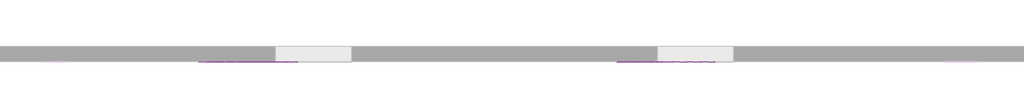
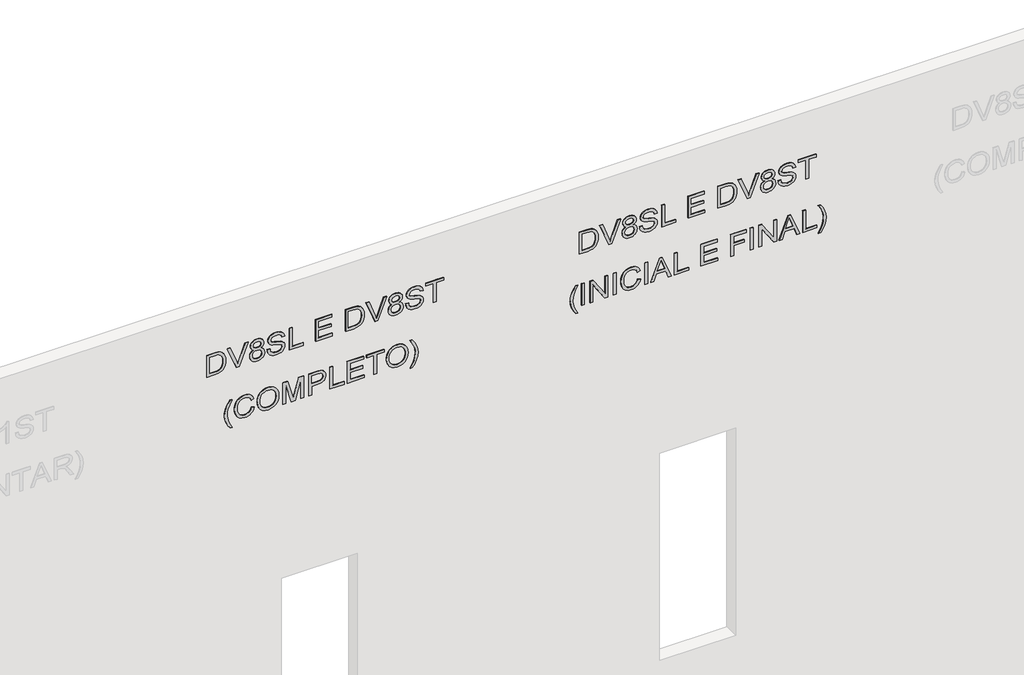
# One storey, part 3 of 4: 2 proxies.
"""IFC4 building model written with IfcOpenShell, lengths in millimetres."""

from ifc_helpers import new_model, si_unit, frame, origin, place, context, project, spatial, polyline, outline, extrude, element, save

model = new_model("IFC4")

# Units and contexts
model_context = context("Model", 3, world=origin())
ifc_project = project(units=[si_unit("LENGTHUNIT", "METRE", prefix="MILLI")], contexts=[model_context])

# Site, building, storey
site = spatial("IfcSite", under=ifc_project)
building = spatial("IfcBuilding", under=site)
storey = spatial("IfcBuildingStorey", under=building, Name="01 - Marelli - Planta Baixa - Painel Simples", Elevation=0.0)

# Proxies
placement = place(None, origin())
element("IfcBuildingElementProxy", 1, Name="300mm Arial", ObjectType="300mm Arial", at=placement, inside=storey, context=model_context, shape_type="SweptSolid", body=[
    extrude(outline(polyline([(6065.9244535, 12379.9457465), (6065.9244535, 12488.9123935), (6071.0748015, 12537.3624523), (6077.4299629, 12556.9061833), (6086.1947515, 12573.3780996), (6098.0129606, 12587.7254974), (6113.5283837, 12600.8956728), (6133.1824793, 12612.3368029), (6157.4167057, 12621.4970646), (6185.8815751, 12627.5119352), (6218.2275995, 12629.5168921), (6256.303386, 12626.555442), (6289.8910122, 12617.6710918), (6318.438655, 12602.8270533), (6341.3944915, 12581.9865383), (6354.5830611, 12561.7162403), (6362.9523764, 12537.6935461), (6367.293384, 12483.9091984), (6367.293384, 12379.9457465), (6065.9244535, 12379.9457465)]), holes=[polyline([(6103.5955698, 12417.6168628), (6329.6222677, 12417.6168628), (6329.6222677, 12483.2470108), (6328.1139515, 12514.995227), (6323.589003, 12536.6634765), (6311.0074387, 12557.9546469), (6290.1853178, 12575.7693326), (6259.8718414, 12587.8266649), (6218.8162107, 12591.8457757), (6187.8313497, 12589.7948336), (6161.8312897, 12583.6420073), (6140.7240602, 12573.8103609), (6124.4176908, 12560.722959), (6115.606917, 12548.5460649), (6109.0402234, 12532.7639273), (6104.9567332, 12511.8498359), (6103.5955698, 12484.2770804), (6103.5955698, 12417.6168628)])]), frame((0.0, 8778.3159498, 0.0), z_axis=(0.0, 1.0, 0.0), x_axis=(0.0, 0.0, 1.0)), (0.0, 0.0, 1.0), 10.0),
    extrude(outline(polyline([(6065.9244535, 12770.3421198), (6065.9244535, 12809.2640349), (6367.293384, 12924.1167938), (6367.293384, 12883.7969271), (6150.1694304, 12803.3043466), (6101.2411251, 12787.2646916), (6150.1694304, 12771.0043074), (6367.293384, 12690.732456), (6367.293384, 12650.4125894), (6065.9244535, 12770.3421198)])), frame((0.0, 8778.3159498, 0.0), z_axis=(0.0, 1.0, 0.0), x_axis=(0.0, 0.0, 1.0)), (0.0, 0.0, 1.0), 10.0),
    extrude(outline(polyline([(6231.9128098, 12999.9004848), (6221.4281729, 12976.5767663), (6204.5423893, 12959.2863125), (6182.0280112, 12948.5809465), (6154.6575908, 12945.0124911), (6135.5070337, 12946.7139453), (6118.007347, 12951.818308), (6102.1585308, 12960.3255792), (6087.960585, 12972.2357588), (6076.2596383, 12986.9234474), (6067.9018193, 13003.7632457), (6062.8871278, 13022.7551537), (6061.215564, 13043.8991714), (6062.88023, 13065.0431891), (6067.8742281, 13084.0350971), (6076.1975583, 13100.8748954), (6087.8502204, 13115.5625841), (6101.9492979, 13127.4727637), (6117.6118739, 13135.9800348), (6134.8379483, 13141.0843975), (6153.6275212, 13142.7858517), (6179.9770691, 13139.3553521), (6202.3718855, 13129.0638533), (6219.965842, 13112.1872668), (6231.9128098, 13089.001504), (6241.8180325, 13108.5268409), (6255.1997401, 13122.368401), (6271.6348682, 13130.6181547), (6290.7003526, 13133.3680726), (6306.0962141, 13131.8229683), (6320.278065, 13127.1876551), (6333.2459053, 13119.4621332), (6344.9997351, 13108.6464026), (6354.7532065, 13095.2968847), (6361.7199718, 13079.970001), (6367.293384, 13043.3841366), (6361.8487305, 13007.0190014), (6355.0429135, 12991.8576647), (6345.5147699, 12978.7104819), (6333.9862678, 12968.0878893), (6321.1793759, 12960.5003231), (6307.094094, 12955.9477834), (6291.7304222, 12954.4302702), (6272.0303413, 12957.2169763), (6255.3101047, 12965.5770946), (6241.8456236, 12979.7313544), (6231.9128098, 12999.9004848)]), holes=[polyline([(6290.6267762, 12992.1013865), (6305.525997, 12995.4950979), (6318.1443494, 13005.6762321), (6326.7527881, 13022.0193898), (6329.6222677, 13043.8991714), (6326.6884088, 13065.6409973), (6317.886832, 13082.0117461), (6304.781036, 13092.2756538), (6288.934519, 13095.6969563), (6273.6674162, 13092.3860184), (6260.9754874, 13082.4532045), (6252.422231, 13066.3031849), (6249.5711455, 13044.3406298), (6252.4406251, 13021.8538429), (6261.0490638, 13005.4555029), (6274.182451, 12995.4399156), (6290.6267762, 12992.1013865)]), polyline([(6155.981966, 12982.6836074), (6177.9629152, 12986.66593), (6195.9339506, 12998.6128978), (6207.9085096, 13017.6599881), (6211.9000292, 13042.9426782), (6207.8533273, 13068.8783589), (6195.7132214, 13088.5600456), (6177.3926981, 13100.976063), (6154.8047436, 13105.1147354), (6132.5938681, 13101.1048217), (6114.6688179, 13089.0750804), (6102.8322147, 13069.8348521), (6098.8866803, 13044.193477), (6100.7628785, 13027.4548462), (6106.391473, 13011.2312502), (6115.4505671, 12997.6839958), (6127.6182641, 12988.9743895), (6155.981966, 12982.6836074)])]), frame((0.0, 8778.3159498, 0.0), z_axis=(0.0, 1.0, 0.0), x_axis=(0.0, 0.0, 1.0)), (0.0, 0.0, 1.0), 10.0),
    extrude(outline(polyline([(6169.5200234, 13175.7480785), (6139.0961824, 13180.2178447), (6111.9832793, 13192.0084627), (6089.7264186, 13210.3749713), (6073.8707046, 13234.5724095), (6064.3793492, 13264.9502653), (6061.215564, 13301.8580264), (6064.1494229, 13331.9231825), (6072.9509996, 13358.8429475), (6087.0408801, 13381.2285669), (6105.83965, 13397.6912862), (6127.6826435, 13407.8172381), (6150.9051944, 13411.1925554), (6173.6219076, 13408.2586965), (6193.5059295, 13399.4571198), (6210.3733189, 13384.4751255), (6224.0401351, 13363.000014), (6232.8509088, 13337.8736738), (6242.9492696, 13296.3397965), (6253.5810593, 13256.0935062), (6263.9921197, 13234.8299269), (6275.6355849, 13225.8352121), (6290.1117414, 13222.8369739), (6307.0894955, 13227.0676168), (6321.381711, 13239.7595457), (6331.0937957, 13261.7037067), (6334.3311572, 13293.6910461), (6331.0570075, 13324.9426216), (6321.2345582, 13347.4753938), (6305.0109622, 13361.896368), (6282.5333723, 13368.8125496), (6282.5333723, 13406.4836659), (6307.4941657, 13402.2346288), (6329.6958441, 13391.5476569), (6347.9979733, 13374.6618733), (6361.2601193, 13351.8164014), (6369.316735, 13324.0045225), (6372.0022735, 13292.2195182), (6369.4362966, 13262.880929), (6361.7383659, 13236.3750313), (6349.0832252, 13214.2929145), (6331.6456187, 13198.2256684), (6311.0718181, 13188.4308103), (6289.0080954, 13185.1658576), (6269.2712264, 13187.8054109), (6251.5577083, 13195.7240708), (6236.198635, 13209.0138079), (6223.5251003, 13227.7665926), (6214.4660061, 13250.8052026), (6204.9470595, 13286.8116528), (6190.5628735, 13341.6628583), (6182.7545782, 13357.7393015), (6173.4563607, 13367.2674452), (6162.5578566, 13371.9579406), (6149.9487012, 13373.5214391), (6137.0084521, 13371.4337088), (6124.6752082, 13365.1705178), (6113.9330539, 13354.6398957), (6105.7660736, 13339.7498719), (6100.6065286, 13321.3741663), (6098.8866803, 13300.3864985), (6101.1583516, 13276.5477452), (6107.9733656, 13255.2105894), (6118.4763965, 13237.7545888), (6131.8121189, 13225.5593006), (6148.615129, 13217.7418082), (6169.5200234, 13213.4191948), (6169.5200234, 13175.7480785)])), frame((0.0, 8778.3159498, 0.0), z_axis=(0.0, 1.0, 0.0), x_axis=(0.0, 0.0, 1.0)), (0.0, 0.0, 1.0), 10.0),
    extrude(outline(polyline([(6065.9244535, 13467.6992299), (6065.9244535, 13656.0548114), (6103.5955698, 13656.0548114), (6103.5955698, 13505.3703462), (6367.293384, 13505.3703462), (6367.293384, 13467.6992299), (6065.9244535, 13467.6992299)])), frame((0.0, 8778.3159498, 0.0), z_axis=(0.0, 1.0, 0.0), x_axis=(0.0, 0.0, 1.0)), (0.0, 0.0, 1.0), 10.0),
    extrude(outline(polyline([(6065.9244535, 13816.1570557), (6065.9244535, 14037.474864), (6103.5955698, 14037.474864), (6103.5955698, 13853.828172), (6202.4822501, 13853.828172), (6202.4822501, 14023.3481954), (6240.1533665, 14023.3481954), (6240.1533665, 13853.828172), (6329.6222677, 13853.828172), (6329.6222677, 14032.7659745), (6367.293384, 14032.7659745), (6367.293384, 13816.1570557), (6065.9244535, 13816.1570557)])), frame((0.0, 8778.3159498, 0.0), z_axis=(0.0, 1.0, 0.0), x_axis=(0.0, 0.0, 1.0)), (0.0, 0.0, 1.0), 10.0),
    extrude(outline(polyline([(6065.9244535, 14211.7037769), (6065.9244535, 14320.6704239), (6071.0748015, 14369.1204826), (6077.4299629, 14388.6642136), (6086.1947515, 14405.13613), (6098.0129606, 14419.4835278), (6113.5283837, 14432.6537032), (6133.1824793, 14444.0948333), (6157.4167057, 14453.2550949), (6185.8815751, 14459.2699656), (6218.2275995, 14461.2749224), (6256.303386, 14458.3134724), (6289.8910122, 14449.4291222), (6318.438655, 14434.5850837), (6341.3944915, 14413.7445687), (6354.5830611, 14393.4742707), (6362.9523764, 14369.4515764), (6367.293384, 14315.6672287), (6367.293384, 14211.7037769), (6065.9244535, 14211.7037769)]), holes=[polyline([(6103.5955698, 14249.3748932), (6329.6222677, 14249.3748932), (6329.6222677, 14315.0050412), (6328.1139515, 14346.7532573), (6323.589003, 14368.4215069), (6311.0074387, 14389.7126773), (6290.1853178, 14407.5273629), (6259.8718414, 14419.5846953), (6218.8162107, 14423.6038061), (6187.8313497, 14421.552864), (6161.8312897, 14415.4000376), (6140.7240602, 14405.5683913), (6124.4176908, 14392.4809893), (6115.606917, 14380.3040953), (6109.0402234, 14364.5219577), (6104.9567332, 14343.6078663), (6103.5955698, 14316.0351107), (6103.5955698, 14249.3748932)])]), frame((0.0, 8778.3159498, 0.0), z_axis=(0.0, 1.0, 0.0), x_axis=(0.0, 0.0, 1.0)), (0.0, 0.0, 1.0), 10.0),
    extrude(outline(polyline([(6065.9244535, 14602.1001502), (6065.9244535, 14641.0220653), (6367.293384, 14755.8748242), (6367.293384, 14715.5549575), (6150.1694304, 14635.062377), (6101.2411251, 14619.022722), (6150.1694304, 14602.7623378), (6367.293384, 14522.4904864), (6367.293384, 14482.1706198), (6065.9244535, 14602.1001502)])), frame((0.0, 8778.3159498, 0.0), z_axis=(0.0, 1.0, 0.0), x_axis=(0.0, 0.0, 1.0)), (0.0, 0.0, 1.0), 10.0),
    extrude(outline(polyline([(6231.9128098, 14831.6585152), (6221.4281729, 14808.3347967), (6204.5423893, 14791.0443429), (6182.0280112, 14780.3389769), (6154.6575908, 14776.7705215), (6135.5070337, 14778.4719757), (6118.007347, 14783.5763384), (6102.1585308, 14792.0836095), (6087.960585, 14803.9937891), (6076.2596383, 14818.6814778), (6067.9018193, 14835.5212761), (6062.8871278, 14854.5131841), (6061.215564, 14875.6572018), (6062.88023, 14896.8012195), (6067.8742281, 14915.7931275), (6076.1975583, 14932.6329258), (6087.8502204, 14947.3206145), (6101.9492979, 14959.2307941), (6117.6118739, 14967.7380652), (6134.8379483, 14972.8424279), (6153.6275212, 14974.5438821), (6179.9770691, 14971.1133825), (6202.3718855, 14960.8218837), (6219.965842, 14943.9452972), (6231.9128098, 14920.7595344), (6241.8180325, 14940.2848713), (6255.1997401, 14954.1264314), (6271.6348682, 14962.3761851), (6290.7003526, 14965.126103), (6306.0962141, 14963.5809987), (6320.278065, 14958.9456855), (6333.2459053, 14951.2201636), (6344.9997351, 14940.404433), (6354.7532065, 14927.0549151), (6361.7199718, 14911.7280314), (6367.293384, 14875.142167), (6361.8487305, 14838.7770318), (6355.0429135, 14823.6156951), (6345.5147699, 14810.4685123), (6333.9862678, 14799.8459196), (6321.1793759, 14792.2583535), (6307.094094, 14787.7058138), (6291.7304222, 14786.1883006), (6272.0303413, 14788.9750067), (6255.3101047, 14797.335125), (6241.8456236, 14811.4893848), (6231.9128098, 14831.6585152)]), holes=[polyline([(6290.6267762, 14823.8594169), (6305.525997, 14827.2531283), (6318.1443494, 14837.4342625), (6326.7527881, 14853.7774201), (6329.6222677, 14875.6572018), (6326.6884088, 14897.3990277), (6317.886832, 14913.7697765), (6304.781036, 14924.0336842), (6288.934519, 14927.4549867), (6273.6674162, 14924.1440488), (6260.9754874, 14914.2112349), (6252.422231, 14898.0612153), (6249.5711455, 14876.0986602), (6252.4406251, 14853.6118732), (6261.0490638, 14837.2135333), (6274.182451, 14827.197946), (6290.6267762, 14823.8594169)]), polyline([(6155.981966, 14814.4416378), (6177.9629152, 14818.4239604), (6195.9339506, 14830.3709282), (6207.9085096, 14849.4180185), (6211.9000292, 14874.7007086), (6207.8533273, 14900.6363893), (6195.7132214, 14920.318076), (6177.3926981, 14932.7340934), (6154.8047436, 14936.8727658), (6132.5938681, 14932.8628521), (6114.6688179, 14920.8331108), (6102.8322147, 14901.5928825), (6098.8866803, 14875.9515074), (6100.7628785, 14859.2128766), (6106.391473, 14842.9892806), (6115.4505671, 14829.4420262), (6127.6182641, 14820.7324199), (6155.981966, 14814.4416378)])]), frame((0.0, 8778.3159498, 0.0), z_axis=(0.0, 1.0, 0.0), x_axis=(0.0, 0.0, 1.0)), (0.0, 0.0, 1.0), 10.0),
    extrude(outline(polyline([(6169.5200234, 15007.5061089), (6139.0961824, 15011.9758751), (6111.9832793, 15023.7664931), (6089.7264186, 15042.1330017), (6073.8707046, 15066.3304399), (6064.3793492, 15096.7082957), (6061.215564, 15133.6160568), (6064.1494229, 15163.6812129), (6072.9509996, 15190.6009779), (6087.0408801, 15212.9865973), (6105.83965, 15229.4493166), (6127.6826435, 15239.5752685), (6150.9051944, 15242.9505858), (6173.6219076, 15240.0167269), (6193.5059295, 15231.2151501), (6210.3733189, 15216.2331559), (6224.0401351, 15194.7580444), (6232.8509088, 15169.6317041), (6242.9492696, 15128.0978269), (6253.5810593, 15087.8515366), (6263.9921197, 15066.5879573), (6275.6355849, 15057.5932425), (6290.1117414, 15054.5950043), (6307.0894955, 15058.8256472), (6321.381711, 15071.517576), (6331.0937957, 15093.461737), (6334.3311572, 15125.4490765), (6331.0570075, 15156.700652), (6321.2345582, 15179.2334242), (6305.0109622, 15193.6543984), (6282.5333723, 15200.5705799), (6282.5333723, 15238.2416962), (6307.4941657, 15233.9926592), (6329.6958441, 15223.3056872), (6347.9979733, 15206.4199037), (6361.2601193, 15183.5744318), (6369.316735, 15155.7625529), (6372.0022735, 15123.9775485), (6369.4362966, 15094.6389594), (6361.7383659, 15068.1330617), (6349.0832252, 15046.0509449), (6331.6456187, 15029.9836988), (6311.0718181, 15020.1888407), (6289.0080954, 15016.923888), (6269.2712264, 15019.5634413), (6251.5577083, 15027.4821012), (6236.198635, 15040.7718383), (6223.5251003, 15059.524623), (6214.4660061, 15082.5632329), (6204.9470595, 15118.5696832), (6190.5628735, 15173.4208887), (6182.7545782, 15189.4973319), (6173.4563607, 15199.0254756), (6162.5578566, 15203.715971), (6149.9487012, 15205.2794695), (6137.0084521, 15203.1917392), (6124.6752082, 15196.9285482), (6113.9330539, 15186.3979261), (6105.7660736, 15171.5079023), (6100.6065286, 15153.1321967), (6098.8866803, 15132.1445288), (6101.1583516, 15108.3057756), (6107.9733656, 15086.9686198), (6118.4763965, 15069.5126192), (6131.8121189, 15057.317331), (6148.615129, 15049.4998386), (6169.5200234, 15045.1772252), (6169.5200234, 15007.5061089)])), frame((0.0, 8778.3159498, 0.0), z_axis=(0.0, 1.0, 0.0), x_axis=(0.0, 0.0, 1.0)), (0.0, 0.0, 1.0), 10.0),
    extrude(outline(polyline([(6065.9244535, 15374.7994929), (6065.9244535, 15412.4706092), (6329.6222677, 15412.4706092), (6329.6222677, 15511.3572895), (6367.293384, 15511.3572895), (6367.293384, 15275.9128126), (6329.6222677, 15275.9128126), (6329.6222677, 15374.7994929), (6065.9244535, 15374.7994929)])), frame((0.0, 8778.3159498, 0.0), z_axis=(0.0, 1.0, 0.0), x_axis=(0.0, 0.0, 1.0)), (0.0, 0.0, 1.0), 10.0),
    extrude(outline(polyline([(5249.3155348, 12686.0235665), (5249.3155348, 12714.2769037), (5297.5540614, 12685.4349553), (5345.8109821, 12664.8335636), (5394.0862969, 12652.4727286), (5442.3800058, 12648.3524502), (5480.2534572, 12650.7252891), (5517.9429677, 12657.8438057), (5575.7740173, 12679.0338086), (5635.4444769, 12714.2769037), (5635.4444769, 12686.0235665), (5584.934279, 12651.3322944), (5534.2033518, 12627.0152945), (5489.4137189, 12614.764824), (5442.600735, 12610.6813339), (5389.2210575, 12616.1443815), (5337.68079, 12632.5335244), (5290.2791949, 12656.8321302), (5249.3155348, 12686.0235665)])), frame((0.0, 8778.3159498, 0.0), z_axis=(0.0, 1.0, 0.0), x_axis=(0.0, 0.0, 1.0)), (0.0, 0.0, 1.0), 10.0),
    extrude(outline(polyline([(5441.2027835, 12968.5569388), (5408.9395325, 12956.3708477), (5385.7261786, 12936.5879934), (5371.7098746, 12910.3855983), (5367.0377732, 12878.9408848), (5370.4682728, 12851.9659375), (5380.7597717, 12826.9591589), (5397.9858461, 12806.1002497), (5422.2200725, 12791.5689109), (5452.3128197, 12783.0432457), (5487.1144565, 12780.2013573), (5515.5333406, 12782.6017873), (5543.1060961, 12789.8030774), (5567.4966724, 12802.9272675), (5586.3690188, 12823.0963979), (5598.4539423, 12849.6758721), (5602.4822501, 12882.0310935), (5598.8494154, 12910.1004898), (5587.9509113, 12932.9459617), (5569.1061561, 12950.7882384), (5541.6345681, 12963.8480493), (5550.6108888, 13001.5191656), (5588.4291579, 12984.8817023), (5603.751443, 12973.0795881), (5616.6824952, 12958.9552187), (5626.9510013, 12942.7753087), (5634.2856486, 12924.8065725), (5640.1533665, 12883.5026215), (5635.6192209, 12845.6475642), (5622.0167841, 12811.1034449), (5599.6771499, 12781.9763879), (5568.9314122, 12760.3725177), (5530.9843844, 12746.9908102), (5487.0408801, 12742.530241), (5445.3782441, 12746.4757754), (5406.4747231, 12758.3123786), (5373.3837376, 12777.6997597), (5349.1587083, 12804.297628), (5334.3146698, 12838.9980972), (5329.3666569, 12882.6932811), (5331.0014325, 12905.1156887), (5335.9057594, 12925.7354746), (5344.0796375, 12944.5526386), (5355.5230668, 12961.5671809), (5370.0796975, 12976.4434091), (5387.5931797, 12988.8456308), (5408.0635135, 12998.7738462), (5431.4906988, 13006.2280551), (5441.2027835, 12968.5569388)])), frame((0.0, 8778.3159498, 0.0), z_axis=(0.0, 1.0, 0.0), x_axis=(0.0, 0.0, 1.0)), (0.0, 0.0, 1.0), 10.0),
    extrude(outline(polyline([(5480.7868861, 13043.8991714), (5442.2420501, 13048.2033908), (5405.7757473, 13061.1160488), (5374.0827134, 13082.3796281), (5349.8576841, 13111.7366113), (5334.4894137, 13147.3843767), (5329.3666569, 13187.5203023), (5334.0019701, 13225.3293744), (5347.9079095, 13260.471302), (5370.8269578, 13290.4352905), (5402.5015976, 13312.7105453), (5440.9636602, 13326.5337113), (5484.2449769, 13331.1414333), (5526.9560765, 13326.7636375), (5564.8847102, 13313.6302503), (5596.5041677, 13292.1459418), (5620.2877387, 13262.7153821), (5635.1869595, 13227.2699519), (5640.1533665, 13187.7410315), (5637.5092146, 13157.4505478), (5629.5767591, 13130.0755288), (5616.3559999, 13105.6159746), (5597.846937, 13084.0718853), (5574.6657728, 13066.496323), (5547.4287096, 13053.9423499), (5516.1357474, 13046.409966), (5480.7868861, 13043.8991714)]), holes=[polyline([(5480.4190041, 13081.5702877), (5510.955509, 13083.5338579), (5536.7877229, 13089.4245683), (5557.9156457, 13099.2424191), (5574.3392775, 13112.9874101), (5586.651828, 13129.4547279), (5595.446507, 13147.439559), (5600.7233144, 13166.9419032), (5602.4822501, 13187.9617607), (5598.8310213, 13217.1256059), (5587.8773349, 13243.2544246), (5570.2833785, 13264.9134771), (5546.7113397, 13280.6680235), (5517.8877854, 13290.2697436), (5484.5392825, 13293.4703169), (5458.0011951, 13291.6010166), (5434.672878, 13285.9931154), (5414.5543314, 13276.6466135), (5397.6455552, 13263.5615107), (5384.2546506, 13247.5793373), (5374.6897187, 13229.5416232), (5368.9507596, 13209.4483685), (5367.0377732, 13187.2995731), (5368.9323655, 13165.5232583), (5374.6161423, 13145.6645283), (5384.0891037, 13127.7233833), (5397.3512496, 13111.6998231), (5413.9105379, 13098.5181514), (5433.2749265, 13089.1026716), (5455.4444152, 13083.4533837), (5480.4190041, 13081.5702877)])]), frame((0.0, 8778.3159498, 0.0), z_axis=(0.0, 1.0, 0.0), x_axis=(0.0, 0.0, 1.0)), (0.0, 0.0, 1.0), 10.0),
    extrude(outline(polyline([(5334.0755465, 13382.9392182), (5334.0755465, 13420.6103345), (5597.7733606, 13420.6103345), (5334.0755465, 13496.3204491), (5334.0755465, 13547.38247), (5597.7733606, 13623.0925846), (5334.0755465, 13623.0925846), (5334.0755465, 13660.7637009), (5635.4444769, 13660.7637009), (5635.4444769, 13595.9428934), (5426.7082328, 13535.3159406), (5378.6628443, 13521.8514596), (5423.0294129, 13509.4170481), (5635.4444769, 13447.7600257), (5635.4444769, 13382.9392182), (5334.0755465, 13382.9392182)])), frame((0.0, 8778.3159498, 0.0), z_axis=(0.0, 1.0, 0.0), x_axis=(0.0, 0.0, 1.0)), (0.0, 0.0, 1.0), 10.0),
    extrude(outline(polyline([(5334.0755465, 13726.6881545), (5334.0755465, 13764.3592708), (5456.5066745, 13764.3592708), (5456.5066745, 13840.9523022), (5458.1713405, 13870.1506363), (5463.1653386, 13894.4699354), (5471.4886687, 13913.9101996), (5483.1413309, 13928.4714288), (5497.1990217, 13939.0779266), (5512.7374374, 13946.6539964), (5529.7565782, 13951.1996383), (5548.2564441, 13952.7148523), (5569.7131614, 13950.4707721), (5589.3488629, 13943.7385316), (5605.9955232, 13933.3182741), (5618.4851169, 13920.0101429), (5627.2131173, 13903.4830443), (5632.5749974, 13883.4058844), (5635.4444769, 13838.3771282), (5635.4444769, 13726.6881545), (5334.0755465, 13726.6881545)]), holes=[polyline([(5494.1777908, 13764.3592708), (5597.7733606, 13764.3592708), (5597.7733606, 13842.2766774), (5595.1981866, 13879.9477937), (5588.8706163, 13894.1756298), (5578.1284621, 13905.3684395), (5563.8546407, 13912.6249119), (5546.9320689, 13915.043736), (5524.6568141, 13910.9418518), (5508.0101538, 13898.636199), (5497.6358815, 13876.5632793), (5494.1777908, 13843.1595941), (5494.1777908, 13764.3592708)])]), frame((0.0, 8778.3159498, 0.0), z_axis=(0.0, 1.0, 0.0), x_axis=(0.0, 0.0, 1.0)), (0.0, 0.0, 1.0), 10.0),
    extrude(outline(polyline([(5334.0755465, 14004.5126372), (5334.0755465, 14192.8682188), (5371.7466628, 14192.8682188), (5371.7466628, 14042.1837535), (5635.4444769, 14042.1837535), (5635.4444769, 14004.5126372), (5334.0755465, 14004.5126372)])), frame((0.0, 8778.3159498, 0.0), z_axis=(0.0, 1.0, 0.0), x_axis=(0.0, 0.0, 1.0)), (0.0, 0.0, 1.0), 10.0),
    extrude(outline(polyline([(5334.0755465, 14235.2482246), (5334.0755465, 14456.5660329), (5371.7466628, 14456.5660329), (5371.7466628, 14272.9193409), (5470.6333431, 14272.9193409), (5470.6333431, 14442.4393643), (5508.3044594, 14442.4393643), (5508.3044594, 14272.9193409), (5597.7733606, 14272.9193409), (5597.7733606, 14451.8571434), (5635.4444769, 14451.8571434), (5635.4444769, 14235.2482246), (5334.0755465, 14235.2482246)])), frame((0.0, 8778.3159498, 0.0), z_axis=(0.0, 1.0, 0.0), x_axis=(0.0, 0.0, 1.0)), (0.0, 0.0, 1.0), 10.0),
    extrude(outline(polyline([(5334.0755465, 14588.41494), (5334.0755465, 14626.0860563), (5597.7733606, 14626.0860563), (5597.7733606, 14724.9727366), (5635.4444769, 14724.9727366), (5635.4444769, 14489.5282597), (5597.7733606, 14489.5282597), (5597.7733606, 14588.41494), (5334.0755465, 14588.41494)])), frame((0.0, 8778.3159498, 0.0), z_axis=(0.0, 1.0, 0.0), x_axis=(0.0, 0.0, 1.0)), (0.0, 0.0, 1.0), 10.0),
    extrude(outline(polyline([(5480.7868861, 14753.2260738), (5442.2420501, 14757.5302932), (5405.7757473, 14770.4429512), (5374.0827134, 14791.7065305), (5349.8576841, 14821.0635137), (5334.4894137, 14856.7112791), (5329.3666569, 14896.8472047), (5334.0019701, 14934.6562768), (5347.9079095, 14969.7982044), (5370.8269578, 14999.7621929), (5402.5015976, 15022.0374477), (5440.9636602, 15035.8606137), (5484.2449769, 15040.4683356), (5526.9560765, 15036.0905399), (5564.8847102, 15022.9571527), (5596.5041677, 15001.4728442), (5620.2877387, 14972.0422845), (5635.1869595, 14936.5968543), (5640.1533665, 14897.0679339), (5637.5092146, 14866.7774501), (5629.5767591, 14839.4024312), (5616.3559999, 14814.942877), (5597.846937, 14793.3987877), (5574.6657728, 14775.8232254), (5547.4287096, 14763.2692523), (5516.1357474, 14755.7368684), (5480.7868861, 14753.2260738)]), holes=[polyline([(5480.4190041, 14790.8971901), (5510.955509, 14792.8607603), (5536.7877229, 14798.7514707), (5557.9156457, 14808.5693215), (5574.3392775, 14822.3143125), (5586.651828, 14838.7816303), (5595.446507, 14856.7664614), (5600.7233144, 14876.2688056), (5602.4822501, 14897.2886631), (5598.8310213, 14926.4525083), (5587.8773349, 14952.581327), (5570.2833785, 14974.2403795), (5546.7113397, 14989.9949259), (5517.8877854, 14999.596646), (5484.5392825, 15002.7972193), (5458.0011951, 15000.9279189), (5434.672878, 14995.3200178), (5414.5543314, 14985.9735158), (5397.6455552, 14972.8884131), (5384.2546506, 14956.9062397), (5374.6897187, 14938.8685256), (5368.9507596, 14918.7752709), (5367.0377732, 14896.6264755), (5368.9323655, 14874.8501607), (5374.6161423, 14854.9914307), (5384.0891037, 14837.0502857), (5397.3512496, 14821.0267255), (5413.9105379, 14807.8450538), (5433.2749265, 14798.429574), (5455.4444152, 14792.7802861), (5480.4190041, 14790.8971901)])]), frame((0.0, 8778.3159498, 0.0), z_axis=(0.0, 1.0, 0.0), x_axis=(0.0, 0.0, 1.0)), (0.0, 0.0, 1.0), 10.0),
    extrude(outline(polyline([(5249.3155348, 15096.9750101), (5290.2791949, 15126.0284907), (5337.68079, 15150.3546876), (5389.2210575, 15166.8266039), (5442.600735, 15172.3172427), (5489.4137189, 15168.2337526), (5534.2033518, 15155.9832821), (5584.934279, 15131.6662822), (5635.4444769, 15096.9750101), (5635.4444769, 15068.7216729), (5575.1854061, 15104.1854972), (5546.8400984, 15116.1600561), (5517.2807801, 15125.1547709), (5479.9775458, 15132.2732875), (5442.3800058, 15134.6461264), (5394.0862969, 15130.5258481), (5345.8109821, 15118.165013), (5297.5540614, 15097.5636213), (5249.3155348, 15068.7216729), (5249.3155348, 15096.9750101)])), frame((0.0, 8778.3159498, 0.0), z_axis=(0.0, 1.0, 0.0), x_axis=(0.0, 0.0, 1.0)), (0.0, 0.0, 1.0), 10.0),
])
element("IfcBuildingElementProxy", 2, Name="300mm Arial", ObjectType="300mm Arial", at=placement, inside=storey, context=model_context, shape_type="SweptSolid", body=[
    extrude(outline(polyline([(6065.9244535, 17304.6035139), (6065.9244535, 17413.5701609), (6071.0748015, 17462.0202196), (6077.4299629, 17481.5639506), (6086.1947515, 17498.035867), (6098.0129606, 17512.3832648), (6113.5283837, 17525.5534402), (6133.1824793, 17536.9945703), (6157.4167057, 17546.1548319), (6185.8815751, 17552.1697026), (6218.2275995, 17554.1746594), (6256.303386, 17551.2132094), (6289.8910122, 17542.3288592), (6318.438655, 17527.4848207), (6341.3944915, 17506.6443057), (6354.5830611, 17486.3740077), (6362.9523764, 17462.3513134), (6367.293384, 17408.5669657), (6367.293384, 17304.6035139), (6065.9244535, 17304.6035139)]), holes=[polyline([(6103.5955698, 17342.2746302), (6329.6222677, 17342.2746302), (6329.6222677, 17407.9047782), (6328.1139515, 17439.6529943), (6323.589003, 17461.3212439), (6311.0074387, 17482.6124143), (6290.1853178, 17500.4270999), (6259.8718414, 17512.4844323), (6218.8162107, 17516.5035431), (6187.8313497, 17514.452601), (6161.8312897, 17508.2997746), (6140.7240602, 17498.4681283), (6124.4176908, 17485.3807263), (6115.606917, 17473.2038323), (6109.0402234, 17457.4216947), (6104.9567332, 17436.5076033), (6103.5955698, 17408.9348477), (6103.5955698, 17342.2746302)])]), frame((0.0, 8778.3159498, 0.0), z_axis=(0.0, 1.0, 0.0), x_axis=(0.0, 0.0, 1.0)), (0.0, 0.0, 1.0), 10.0),
    extrude(outline(polyline([(6065.9244535, 17694.9998872), (6065.9244535, 17733.9218023), (6367.293384, 17848.7745612), (6367.293384, 17808.4546945), (6150.1694304, 17727.962114), (6101.2411251, 17711.922459), (6150.1694304, 17695.6620748), (6367.293384, 17615.3902234), (6367.293384, 17575.0703568), (6065.9244535, 17694.9998872)])), frame((0.0, 8778.3159498, 0.0), z_axis=(0.0, 1.0, 0.0), x_axis=(0.0, 0.0, 1.0)), (0.0, 0.0, 1.0), 10.0),
    extrude(outline(polyline([(6231.9128098, 17924.5582522), (6221.4281729, 17901.2345337), (6204.5423893, 17883.9440799), (6182.0280112, 17873.2387139), (6154.6575908, 17869.6702585), (6135.5070337, 17871.3717127), (6118.007347, 17876.4760754), (6102.1585308, 17884.9833466), (6087.960585, 17896.8935261), (6076.2596383, 17911.5812148), (6067.9018193, 17928.4210131), (6062.8871278, 17947.4129211), (6061.215564, 17968.5569388), (6062.88023, 17989.7009565), (6067.8742281, 18008.6928645), (6076.1975583, 18025.5326628), (6087.8502204, 18040.2203515), (6101.9492979, 18052.1305311), (6117.6118739, 18060.6378022), (6134.8379483, 18065.7421649), (6153.6275212, 18067.4436191), (6179.9770691, 18064.0131195), (6202.3718855, 18053.7216207), (6219.965842, 18036.8450342), (6231.9128098, 18013.6592714), (6241.8180325, 18033.1846083), (6255.1997401, 18047.0261684), (6271.6348682, 18055.2759221), (6290.7003526, 18058.02584), (6306.0962141, 18056.4807357), (6320.278065, 18051.8454225), (6333.2459053, 18044.1199006), (6344.9997351, 18033.30417), (6354.7532065, 18019.9546521), (6361.7199718, 18004.6277684), (6367.293384, 17968.041904), (6361.8487305, 17931.6767688), (6355.0429135, 17916.5154321), (6345.5147699, 17903.3682493), (6333.9862678, 17892.7456567), (6321.1793759, 17885.1580905), (6307.094094, 17880.6055508), (6291.7304222, 17879.0880376), (6272.0303413, 17881.8747437), (6255.3101047, 17890.234862), (6241.8456236, 17904.3891218), (6231.9128098, 17924.5582522)]), holes=[polyline([(6290.6267762, 17916.7591539), (6305.525997, 17920.1528653), (6318.1443494, 17930.3339995), (6326.7527881, 17946.6771571), (6329.6222677, 17968.5569388), (6326.6884088, 17990.2987647), (6317.886832, 18006.6695135), (6304.781036, 18016.9334212), (6288.934519, 18020.3547237), (6273.6674162, 18017.0437858), (6260.9754874, 18007.1109719), (6252.422231, 17990.9609523), (6249.5711455, 17968.9983972), (6252.4406251, 17946.5116102), (6261.0490638, 17930.1132703), (6274.182451, 17920.097683), (6290.6267762, 17916.7591539)]), polyline([(6155.981966, 17907.3413748), (6177.9629152, 17911.3236974), (6195.9339506, 17923.2706652), (6207.9085096, 17942.3177555), (6211.9000292, 17967.6004456), (6207.8533273, 17993.5361263), (6195.7132214, 18013.217813), (6177.3926981, 18025.6338304), (6154.8047436, 18029.7725028), (6132.5938681, 18025.7625891), (6114.6688179, 18013.7328478), (6102.8322147, 17994.4926195), (6098.8866803, 17968.8512444), (6100.7628785, 17952.1126136), (6106.391473, 17935.8890176), (6115.4505671, 17922.3417632), (6127.6182641, 17913.6321569), (6155.981966, 17907.3413748)])]), frame((0.0, 8778.3159498, 0.0), z_axis=(0.0, 1.0, 0.0), x_axis=(0.0, 0.0, 1.0)), (0.0, 0.0, 1.0), 10.0),
    extrude(outline(polyline([(6169.5200234, 18100.4058459), (6139.0961824, 18104.8756121), (6111.9832793, 18116.6662301), (6089.7264186, 18135.0327387), (6073.8707046, 18159.2301769), (6064.3793492, 18189.6080327), (6061.215564, 18226.5157938), (6064.1494229, 18256.5809499), (6072.9509996, 18283.5007149), (6087.0408801, 18305.8863343), (6105.83965, 18322.3490536), (6127.6826435, 18332.4750055), (6150.9051944, 18335.8503228), (6173.6219076, 18332.9164639), (6193.5059295, 18324.1148871), (6210.3733189, 18309.1328929), (6224.0401351, 18287.6577814), (6232.8509088, 18262.5314412), (6242.9492696, 18220.9975639), (6253.5810593, 18180.7512736), (6263.9921197, 18159.4876943), (6275.6355849, 18150.4929795), (6290.1117414, 18147.4947413), (6307.0894955, 18151.7253842), (6321.381711, 18164.417313), (6331.0937957, 18186.3614741), (6334.3311572, 18218.3488135), (6331.0570075, 18249.600389), (6321.2345582, 18272.1331612), (6305.0109622, 18286.5541354), (6282.5333723, 18293.4703169), (6282.5333723, 18331.1414333), (6307.4941657, 18326.8923962), (6329.6958441, 18316.2054242), (6347.9979733, 18299.3196407), (6361.2601193, 18276.4741688), (6369.316735, 18248.6622899), (6372.0022735, 18216.8772856), (6369.4362966, 18187.5386964), (6361.7383659, 18161.0327987), (6349.0832252, 18138.9506819), (6331.6456187, 18122.8834358), (6311.0718181, 18113.0885777), (6289.0080954, 18109.823625), (6269.2712264, 18112.4631783), (6251.5577083, 18120.3818382), (6236.198635, 18133.6715753), (6223.5251003, 18152.42436), (6214.4660061, 18175.4629699), (6204.9470595, 18211.4694202), (6190.5628735, 18266.3206257), (6182.7545782, 18282.3970689), (6173.4563607, 18291.9252126), (6162.5578566, 18296.615708), (6149.9487012, 18298.1792065), (6137.0084521, 18296.0914762), (6124.6752082, 18289.8282852), (6113.9330539, 18279.2976631), (6105.7660736, 18264.4076393), (6100.6065286, 18246.0319337), (6098.8866803, 18225.0442658), (6101.1583516, 18201.2055126), (6107.9733656, 18179.8683568), (6118.4763965, 18162.4123562), (6131.8121189, 18150.217068), (6148.615129, 18142.3995756), (6169.5200234, 18138.0769622), (6169.5200234, 18100.4058459)])), frame((0.0, 8778.3159498, 0.0), z_axis=(0.0, 1.0, 0.0), x_axis=(0.0, 0.0, 1.0)), (0.0, 0.0, 1.0), 10.0),
    extrude(outline(polyline([(6065.9244535, 18392.3569973), (6065.9244535, 18580.7125788), (6103.5955698, 18580.7125788), (6103.5955698, 18430.0281136), (6367.293384, 18430.0281136), (6367.293384, 18392.3569973), (6065.9244535, 18392.3569973)])), frame((0.0, 8778.3159498, 0.0), z_axis=(0.0, 1.0, 0.0), x_axis=(0.0, 0.0, 1.0)), (0.0, 0.0, 1.0), 10.0),
    extrude(outline(polyline([(6065.9244535, 18740.8148231), (6065.9244535, 18962.1326314), (6103.5955698, 18962.1326314), (6103.5955698, 18778.4859394), (6202.4822501, 18778.4859394), (6202.4822501, 18948.0059628), (6240.1533665, 18948.0059628), (6240.1533665, 18778.4859394), (6329.6222677, 18778.4859394), (6329.6222677, 18957.4237418), (6367.293384, 18957.4237418), (6367.293384, 18740.8148231), (6065.9244535, 18740.8148231)])), frame((0.0, 8778.3159498, 0.0), z_axis=(0.0, 1.0, 0.0), x_axis=(0.0, 0.0, 1.0)), (0.0, 0.0, 1.0), 10.0),
    extrude(outline(polyline([(6065.9244535, 19136.3615443), (6065.9244535, 19245.3281913), (6071.0748015, 19293.77825), (6077.4299629, 19313.321981), (6086.1947515, 19329.7938974), (6098.0129606, 19344.1412952), (6113.5283837, 19357.3114706), (6133.1824793, 19368.7526006), (6157.4167057, 19377.9128623), (6185.8815751, 19383.9277329), (6218.2275995, 19385.9326898), (6256.303386, 19382.9712398), (6289.8910122, 19374.0868896), (6318.438655, 19359.2428511), (6341.3944915, 19338.402336), (6354.5830611, 19318.1320381), (6362.9523764, 19294.1093438), (6367.293384, 19240.3249961), (6367.293384, 19136.3615443), (6065.9244535, 19136.3615443)]), holes=[polyline([(6103.5955698, 19174.0326606), (6329.6222677, 19174.0326606), (6329.6222677, 19239.6628085), (6328.1139515, 19271.4110247), (6323.589003, 19293.0792742), (6311.0074387, 19314.3704447), (6290.1853178, 19332.1851303), (6259.8718414, 19344.2424627), (6218.8162107, 19348.2615735), (6187.8313497, 19346.2106314), (6161.8312897, 19340.057805), (6140.7240602, 19330.2261587), (6124.4176908, 19317.1387567), (6115.606917, 19304.9618627), (6109.0402234, 19289.1797251), (6104.9567332, 19268.2656337), (6103.5955698, 19240.6928781), (6103.5955698, 19174.0326606)])]), frame((0.0, 8778.3159498, 0.0), z_axis=(0.0, 1.0, 0.0), x_axis=(0.0, 0.0, 1.0)), (0.0, 0.0, 1.0), 10.0),
    extrude(outline(polyline([(6065.9244535, 19526.7579176), (6065.9244535, 19565.6798327), (6367.293384, 19680.5325916), (6367.293384, 19640.2127249), (6150.1694304, 19559.7201443), (6101.2411251, 19543.6804894), (6150.1694304, 19527.4201052), (6367.293384, 19447.1482538), (6367.293384, 19406.8283871), (6065.9244535, 19526.7579176)])), frame((0.0, 8778.3159498, 0.0), z_axis=(0.0, 1.0, 0.0), x_axis=(0.0, 0.0, 1.0)), (0.0, 0.0, 1.0), 10.0),
    extrude(outline(polyline([(6231.9128098, 19756.3162826), (6221.4281729, 19732.9925641), (6204.5423893, 19715.7021103), (6182.0280112, 19704.9967442), (6154.6575908, 19701.4282889), (6135.5070337, 19703.1297431), (6118.007347, 19708.2341058), (6102.1585308, 19716.7413769), (6087.960585, 19728.6515565), (6076.2596383, 19743.3392452), (6067.9018193, 19760.1790435), (6062.8871278, 19779.1709515), (6061.215564, 19800.3149692), (6062.88023, 19821.4589869), (6067.8742281, 19840.4508949), (6076.1975583, 19857.2906932), (6087.8502204, 19871.9783819), (6101.9492979, 19883.8885614), (6117.6118739, 19892.3958326), (6134.8379483, 19897.5001953), (6153.6275212, 19899.2016495), (6179.9770691, 19895.7711499), (6202.3718855, 19885.4796511), (6219.965842, 19868.6030645), (6231.9128098, 19845.4173018), (6241.8180325, 19864.9426387), (6255.1997401, 19878.7841988), (6271.6348682, 19887.0339525), (6290.7003526, 19889.7838704), (6306.0962141, 19888.238766), (6320.278065, 19883.6034529), (6333.2459053, 19875.877931), (6344.9997351, 19865.0622003), (6354.7532065, 19851.7126824), (6361.7199718, 19836.3857988), (6367.293384, 19799.7999344), (6361.8487305, 19763.4347992), (6355.0429135, 19748.2734624), (6345.5147699, 19735.1262796), (6333.9862678, 19724.503687), (6321.1793759, 19716.9161209), (6307.094094, 19712.3635812), (6291.7304222, 19710.846068), (6272.0303413, 19713.6327741), (6255.3101047, 19721.9928924), (6241.8456236, 19736.1471522), (6231.9128098, 19756.3162826)]), holes=[polyline([(6290.6267762, 19748.5171843), (6305.525997, 19751.9108957), (6318.1443494, 19762.0920299), (6326.7527881, 19778.4351875), (6329.6222677, 19800.3149692), (6326.6884088, 19822.0567951), (6317.886832, 19838.4275439), (6304.781036, 19848.6914516), (6288.934519, 19852.1127541), (6273.6674162, 19848.8018162), (6260.9754874, 19838.8690023), (6252.422231, 19822.7189827), (6249.5711455, 19800.7564276), (6252.4406251, 19778.2696406), (6261.0490638, 19761.8713007), (6274.182451, 19751.8557134), (6290.6267762, 19748.5171843)]), polyline([(6155.981966, 19739.0994052), (6177.9629152, 19743.0817278), (6195.9339506, 19755.0286956), (6207.9085096, 19774.0757859), (6211.9000292, 19799.358476), (6207.8533273, 19825.2941567), (6195.7132214, 19844.9758434), (6177.3926981, 19857.3918607), (6154.8047436, 19861.5305332), (6132.5938681, 19857.5206194), (6114.6688179, 19845.4908782), (6102.8322147, 19826.2506499), (6098.8866803, 19800.6092748), (6100.7628785, 19783.870644), (6106.391473, 19767.647048), (6115.4505671, 19754.0997935), (6127.6182641, 19745.3901873), (6155.981966, 19739.0994052)])]), frame((0.0, 8778.3159498, 0.0), z_axis=(0.0, 1.0, 0.0), x_axis=(0.0, 0.0, 1.0)), (0.0, 0.0, 1.0), 10.0),
    extrude(outline(polyline([(6169.5200234, 19932.1638763), (6139.0961824, 19936.6336425), (6111.9832793, 19948.4242604), (6089.7264186, 19966.7907691), (6073.8707046, 19990.9882073), (6064.3793492, 20021.366063), (6061.215564, 20058.2738242), (6064.1494229, 20088.3389803), (6072.9509996, 20115.2587453), (6087.0408801, 20137.6443647), (6105.83965, 20154.107084), (6127.6826435, 20164.2330359), (6150.9051944, 20167.6083532), (6173.6219076, 20164.6744943), (6193.5059295, 20155.8729175), (6210.3733189, 20140.8909233), (6224.0401351, 20119.4158118), (6232.8509088, 20094.2894715), (6242.9492696, 20052.7555943), (6253.5810593, 20012.509304), (6263.9921197, 19991.2457247), (6275.6355849, 19982.2510099), (6290.1117414, 19979.2527716), (6307.0894955, 19983.4834146), (6321.381711, 19996.1753434), (6331.0937957, 20018.1195044), (6334.3311572, 20050.1068439), (6331.0570075, 20081.3584194), (6321.2345582, 20103.8911916), (6305.0109622, 20118.3121658), (6282.5333723, 20125.2283473), (6282.5333723, 20162.8994636), (6307.4941657, 20158.6504266), (6329.6958441, 20147.9634546), (6347.9979733, 20131.0776711), (6361.2601193, 20108.2321992), (6369.316735, 20080.4203203), (6372.0022735, 20048.6353159), (6369.4362966, 20019.2967268), (6361.7383659, 19992.7908291), (6349.0832252, 19970.7087123), (6331.6456187, 19954.6414662), (6311.0718181, 19944.846608), (6289.0080954, 19941.5816553), (6269.2712264, 19944.2212087), (6251.5577083, 19952.1398686), (6236.198635, 19965.4296057), (6223.5251003, 19984.1823904), (6214.4660061, 20007.2210003), (6204.9470595, 20043.2274506), (6190.5628735, 20098.0786561), (6182.7545782, 20114.1550993), (6173.4563607, 20123.683243), (6162.5578566, 20128.3737384), (6149.9487012, 20129.9372369), (6137.0084521, 20127.8495065), (6124.6752082, 20121.5863156), (6113.9330539, 20111.0556935), (6105.7660736, 20096.1656697), (6100.6065286, 20077.7899641), (6098.8866803, 20056.8022962), (6101.1583516, 20032.9635429), (6107.9733656, 20011.6263872), (6118.4763965, 19994.1703865), (6131.8121189, 19981.9750984), (6148.615129, 19974.157606), (6169.5200234, 19969.8349926), (6169.5200234, 19932.1638763)])), frame((0.0, 8778.3159498, 0.0), z_axis=(0.0, 1.0, 0.0), x_axis=(0.0, 0.0, 1.0)), (0.0, 0.0, 1.0), 10.0),
    extrude(outline(polyline([(6065.9244535, 20299.4572602), (6065.9244535, 20337.1283766), (6329.6222677, 20337.1283766), (6329.6222677, 20436.0150569), (6367.293384, 20436.0150569), (6367.293384, 20200.5705799), (6329.6222677, 20200.5705799), (6329.6222677, 20299.4572602), (6065.9244535, 20299.4572602)])), frame((0.0, 8778.3159498, 0.0), z_axis=(0.0, 1.0, 0.0), x_axis=(0.0, 0.0, 1.0)), (0.0, 0.0, 1.0), 10.0),
    extrude(outline(polyline([(5249.3155348, 17257.5146185), (5249.3155348, 17285.7679558), (5297.5540614, 17256.9260073), (5345.8109821, 17236.3246156), (5394.0862969, 17223.9637806), (5442.3800058, 17219.8435022), (5480.2534572, 17222.2163411), (5517.9429677, 17229.3348577), (5575.7740173, 17250.5248606), (5635.4444769, 17285.7679558), (5635.4444769, 17257.5146185), (5584.934279, 17222.8233464), (5534.2033518, 17198.5063465), (5489.4137189, 17186.2558761), (5442.600735, 17182.1723859), (5389.2210575, 17187.6354335), (5337.68079, 17204.0245764), (5290.2791949, 17228.3231822), (5249.3155348, 17257.5146185)])), frame((0.0, 8778.3159498, 0.0), z_axis=(0.0, 1.0, 0.0), x_axis=(0.0, 0.0, 1.0)), (0.0, 0.0, 1.0), 10.0),
    extrude(outline(polyline([(17370.5279674, 8778.3159498), (17332.8568511, 8778.3159498), (17332.8568511, 8788.3159498), (17370.5279674, 8788.3159498), (17370.5279674, 8778.3159498)])), frame((0.0, 0.0, 5334.0755465), z_axis=(0.0, 0.0, 1.0), x_axis=(1.0, 0.0, 0.0)), (0.0, 0.0, 1.0), 301.3689304),
    extrude(outline(polyline([(5334.0755465, 17445.8702001), (5334.0755465, 17483.5413164), (5572.9045377, 17483.5413164), (5334.0755465, 17640.9948103), (5334.0755465, 17681.314677), (5635.4444769, 17681.314677), (5635.4444769, 17643.6435607), (5396.689062, 17643.6435607), (5635.4444769, 17486.1900667), (5635.4444769, 17445.8702001), (5334.0755465, 17445.8702001)])), frame((0.0, 8778.3159498, 0.0), z_axis=(0.0, 1.0, 0.0), x_axis=(0.0, 0.0, 1.0)), (0.0, 0.0, 1.0), 10.0),
    extrude(outline(polyline([(17789.6191364, 8778.3159498), (17751.94802, 8778.3159498), (17751.94802, 8788.3159498), (17789.6191364, 8788.3159498), (17789.6191364, 8778.3159498)])), frame((0.0, 0.0, 5334.0755465), z_axis=(0.0, 0.0, 1.0), x_axis=(1.0, 0.0, 0.0)), (0.0, 0.0, 1.0), 301.3689304),
    extrude(outline(polyline([(5441.2027835, 18076.8613982), (5408.9395325, 18064.6753071), (5385.7261786, 18044.8924528), (5371.7098746, 18018.6900577), (5367.0377732, 17987.2453442), (5370.4682728, 17960.2703969), (5380.7597717, 17935.2636182), (5397.9858461, 17914.4047091), (5422.2200725, 17899.8733703), (5452.3128197, 17891.3477051), (5487.1144565, 17888.5058167), (5515.5333406, 17890.9062467), (5543.1060961, 17898.1075367), (5567.4966724, 17911.2317269), (5586.3690188, 17931.4008573), (5598.4539423, 17957.9803314), (5602.4822501, 17990.3355529), (5598.8494154, 18018.4049492), (5587.9509113, 18041.2504211), (5569.1061561, 18059.0926978), (5541.6345681, 18072.1525086), (5550.6108888, 18109.823625), (5588.4291579, 18093.1861617), (5603.751443, 18081.3840475), (5616.6824952, 18067.2596781), (5626.9510013, 18051.0797681), (5634.2856486, 18033.1110319), (5640.1533665, 17991.8070809), (5635.6192209, 17953.9520236), (5622.0167841, 17919.4079043), (5599.6771499, 17890.2808473), (5568.9314122, 17868.6769771), (5530.9843844, 17855.2952695), (5487.0408801, 17850.8347003), (5445.3782441, 17854.7802347), (5406.4747231, 17866.6168379), (5373.3837376, 17886.0042191), (5349.1587083, 17912.6020873), (5334.3146698, 17947.3025565), (5329.3666569, 17990.9977405), (5331.0014325, 18013.4201481), (5335.9057594, 18034.0399339), (5344.0796375, 18052.857098), (5355.5230668, 18069.8716403), (5370.0796975, 18084.7478685), (5387.5931797, 18097.1500902), (5408.0635135, 18107.0783056), (5431.4906988, 18114.5325145), (5441.2027835, 18076.8613982)])), frame((0.0, 8778.3159498, 0.0), z_axis=(0.0, 1.0, 0.0), x_axis=(0.0, 0.0, 1.0)), (0.0, 0.0, 1.0), 10.0),
    extrude(outline(polyline([(18208.7103053, 8778.3159498), (18171.039189, 8778.3159498), (18171.039189, 8788.3159498), (18208.7103053, 8788.3159498), (18208.7103053, 8778.3159498)])), frame((0.0, 0.0, 5334.0755465), z_axis=(0.0, 0.0, 1.0), x_axis=(1.0, 0.0, 0.0)), (0.0, 0.0, 1.0), 301.3689304),
    extrude(outline(polyline([(5334.0755465, 18248.9565955), (5334.0755465, 18288.7614274), (5428.2533372, 18323.1951822), (5428.2533372, 18447.3185673), (5334.0755465, 18481.8258985), (5334.0755465, 18521.6307304), (5635.4444769, 18401.3333179), (5635.4444769, 18369.254008), (5334.0755465, 18248.9565955)]), holes=[polyline([(5465.9244535, 18337.0275452), (5546.4906105, 18366.5316812), (5597.7733606, 18385.2936629), (5540.0158874, 18406.4100895), (5465.9244535, 18433.5597807), (5465.9244535, 18337.0275452)])]), frame((0.0, 8778.3159498, 0.0), z_axis=(0.0, 1.0, 0.0), x_axis=(0.0, 0.0, 1.0)), (0.0, 0.0, 1.0), 10.0),
    extrude(outline(polyline([(5334.0755465, 18561.8770206), (5334.0755465, 18750.2326022), (5371.7466628, 18750.2326022), (5371.7466628, 18599.5481369), (5635.4444769, 18599.5481369), (5635.4444769, 18561.8770206), (5334.0755465, 18561.8770206)])), frame((0.0, 8778.3159498, 0.0), z_axis=(0.0, 1.0, 0.0), x_axis=(0.0, 0.0, 1.0)), (0.0, 0.0, 1.0), 10.0),
    extrude(outline(polyline([(5334.0755465, 18910.3348465), (5334.0755465, 19131.6526548), (5371.7466628, 19131.6526548), (5371.7466628, 18948.0059628), (5470.6333431, 18948.0059628), (5470.6333431, 19117.5259861), (5508.3044594, 19117.5259861), (5508.3044594, 18948.0059628), (5597.7733606, 18948.0059628), (5597.7733606, 19126.9437652), (5635.4444769, 19126.9437652), (5635.4444769, 18910.3348465), (5334.0755465, 18910.3348465)])), frame((0.0, 8778.3159498, 0.0), z_axis=(0.0, 1.0, 0.0), x_axis=(0.0, 0.0, 1.0)), (0.0, 0.0, 1.0), 10.0),
    extrude(outline(polyline([(5334.0755465, 19305.8815677), (5334.0755465, 19343.552684), (5470.6333431, 19343.552684), (5470.6333431, 19484.8193701), (5508.3044594, 19484.8193701), (5508.3044594, 19343.552684), (5597.7733606, 19343.552684), (5597.7733606, 19508.3638178), (5635.4444769, 19508.3638178), (5635.4444769, 19305.8815677), (5334.0755465, 19305.8815677)])), frame((0.0, 8778.3159498, 0.0), z_axis=(0.0, 1.0, 0.0), x_axis=(0.0, 0.0, 1.0)), (0.0, 0.0, 1.0), 10.0),
    extrude(outline(polyline([(19602.5416086, 8778.3159498), (19564.8704923, 8778.3159498), (19564.8704923, 8788.3159498), (19602.5416086, 8788.3159498), (19602.5416086, 8778.3159498)])), frame((0.0, 0.0, 5334.0755465), z_axis=(0.0, 0.0, 1.0), x_axis=(1.0, 0.0, 0.0)), (0.0, 0.0, 1.0), 301.3689304),
    extrude(outline(polyline([(5334.0755465, 19677.8838412), (5334.0755465, 19715.5549575), (5572.9045377, 19715.5549575), (5334.0755465, 19873.0084514), (5334.0755465, 19913.3283181), (5635.4444769, 19913.3283181), (5635.4444769, 19875.6572018), (5396.689062, 19875.6572018), (5635.4444769, 19718.2037079), (5635.4444769, 19677.8838412), (5334.0755465, 19677.8838412)])), frame((0.0, 8778.3159498, 0.0), z_axis=(0.0, 1.0, 0.0), x_axis=(0.0, 0.0, 1.0)), (0.0, 0.0, 1.0), 10.0),
    extrude(outline(polyline([(5334.0755465, 19944.1568293), (5334.0755465, 19983.9616612), (5428.2533372, 20018.3954159), (5428.2533372, 20142.5188011), (5334.0755465, 20177.0261323), (5334.0755465, 20216.8309641), (5635.4444769, 20096.5335517), (5635.4444769, 20064.4542417), (5334.0755465, 19944.1568293)]), holes=[polyline([(5465.9244535, 20032.227779), (5546.4906105, 20061.731915), (5597.7733606, 20080.4938967), (5540.0158874, 20101.6103232), (5465.9244535, 20128.7600145), (5465.9244535, 20032.227779)])]), frame((0.0, 8778.3159498, 0.0), z_axis=(0.0, 1.0, 0.0), x_axis=(0.0, 0.0, 1.0)), (0.0, 0.0, 1.0), 10.0),
    extrude(outline(polyline([(5334.0755465, 20257.0772544), (5334.0755465, 20445.4328359), (5371.7466628, 20445.4328359), (5371.7466628, 20294.7483707), (5635.4444769, 20294.7483707), (5635.4444769, 20257.0772544), (5334.0755465, 20257.0772544)])), frame((0.0, 8778.3159498, 0.0), z_axis=(0.0, 1.0, 0.0), x_axis=(0.0, 0.0, 1.0)), (0.0, 0.0, 1.0), 10.0),
    extrude(outline(polyline([(5249.3155348, 20492.5217313), (5290.2791949, 20521.5752119), (5337.68079, 20545.9014088), (5389.2210575, 20562.3733251), (5442.600735, 20567.8639639), (5489.4137189, 20563.7804738), (5534.2033518, 20551.5300033), (5584.934279, 20527.2130035), (5635.4444769, 20492.5217313), (5635.4444769, 20464.2683941), (5575.1854061, 20499.7322184), (5546.8400984, 20511.7067774), (5517.2807801, 20520.7014921), (5479.9775458, 20527.8200088), (5442.3800058, 20530.1928476), (5394.0862969, 20526.0725693), (5345.8109821, 20513.7117342), (5297.5540614, 20493.1103425), (5249.3155348, 20464.2683941), (5249.3155348, 20492.5217313)])), frame((0.0, 8778.3159498, 0.0), z_axis=(0.0, 1.0, 0.0), x_axis=(0.0, 0.0, 1.0)), (0.0, 0.0, 1.0), 10.0),
])

save(model, "model.ifc")
